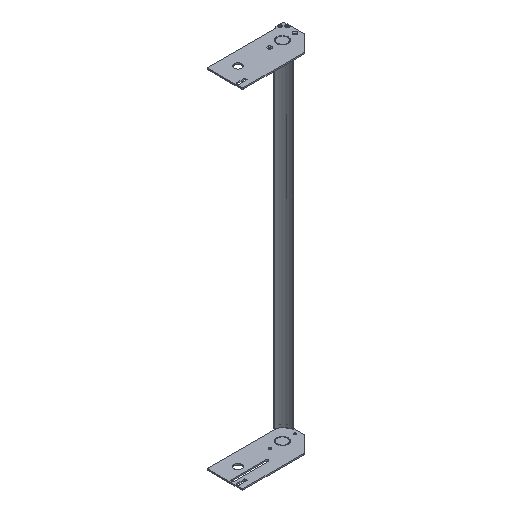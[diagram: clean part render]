
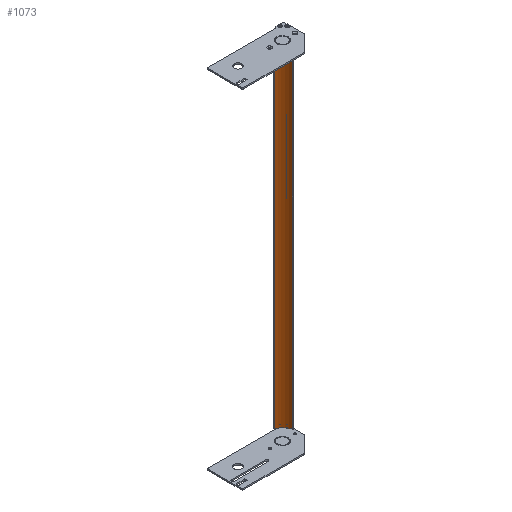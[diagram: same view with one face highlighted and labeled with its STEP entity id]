
A CAD part, isometric view. The second image highlights one B-rep face of the part: STEP entity #1073.
In plain terms, the highlighted cylindrical face has radius 40.64 mm (diameter 81.28 mm), a partial arc.
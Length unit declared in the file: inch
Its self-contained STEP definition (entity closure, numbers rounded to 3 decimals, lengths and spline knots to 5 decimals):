
#735=CARTESIAN_POINT('',(-1.63,-1.52,-17.118));
#736=DIRECTION('',(0.,0.,1.));
#737=DIRECTION('',(0.946,0.325,0.));
#738=AXIS2_PLACEMENT_3D('',#735,#736,#737);
#786=DIRECTION('',(0.,0.,1.));
#787=VECTOR('',#786,34.236);
#788=CARTESIAN_POINT('',(-0.98126,-0.05742,-17.118));
#789=LINE('',#788,#787);
#805=CARTESIAN_POINT('',(-1.63,-1.52,17.118));
#806=DIRECTION('',(0.,0.,-1.));
#807=DIRECTION('',(0.405,0.914,0.));
#808=AXIS2_PLACEMENT_3D('',#805,#806,#807);
#851=DIRECTION('',(0.,0.,1.));
#852=VECTOR('',#851,34.236);
#853=CARTESIAN_POINT('',(-0.11675,-1.00032,-17.118));
#854=LINE('',#853,#852);
#885=CARTESIAN_POINT('',(-0.11675,-1.00032,-17.118));
#886=CARTESIAN_POINT('',(-0.98126,-0.05742,-17.118));
#887=VERTEX_POINT('',#885);
#888=VERTEX_POINT('',#886);
#897=CARTESIAN_POINT('',(-0.98126,-0.05742,17.118));
#898=CARTESIAN_POINT('',(-0.11675,-1.00032,17.118));
#899=VERTEX_POINT('',#897);
#900=VERTEX_POINT('',#898);
#1062=CARTESIAN_POINT('',(-1.63,-1.52,17.118));
#1063=DIRECTION('',(0.,0.,-1.));
#1064=DIRECTION('',(-1.,0.,0.));
#1065=AXIS2_PLACEMENT_3D('',#1062,#1063,#1064);
#1066=CYLINDRICAL_SURFACE('',#1065,1.6);
#1067=ORIENTED_EDGE('',*,*,#940,.T.);
#1068=ORIENTED_EDGE('',*,*,#985,.T.);
#1069=ORIENTED_EDGE('',*,*,#1005,.T.);
#1070=ORIENTED_EDGE('',*,*,#1055,.F.);
#1071=EDGE_LOOP('',(#1067,#1068,#1069,#1070));
#1072=FACE_OUTER_BOUND('',#1071,.F.);
#739=CIRCLE('',#738,1.6);
#809=CIRCLE('',#808,1.6);
#940=EDGE_CURVE('',#887,#888,#739,.T.);
#985=EDGE_CURVE('',#888,#899,#789,.T.);
#1005=EDGE_CURVE('',#899,#900,#809,.T.);
#1055=EDGE_CURVE('',#887,#900,#854,.T.);
#1073=ADVANCED_FACE('',(#1072),#1066,.F.);
